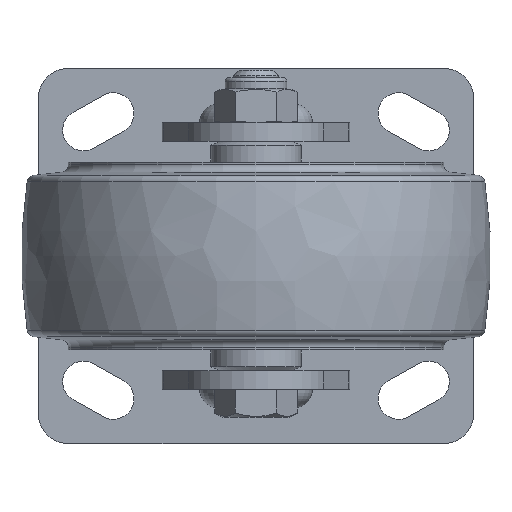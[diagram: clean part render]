
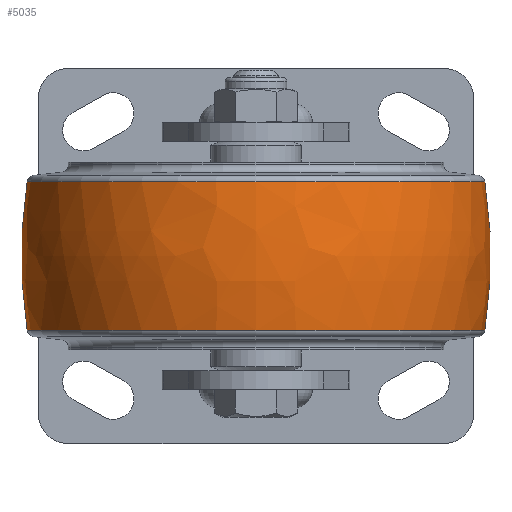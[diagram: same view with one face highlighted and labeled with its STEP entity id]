
A CAD part, front view. The second image highlights one B-rep face of the part: STEP entity #5035.
In plain terms, the highlighted free-form (B-spline) face has degree [3, 3] with [7, 4] control points.
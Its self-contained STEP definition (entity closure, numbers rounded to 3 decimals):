
#3386=CARTESIAN_POINT('',(0.,-64.241,0.));
#3387=DIRECTION('',(0.,0.,1.));
#3388=DIRECTION('',(0.156,0.988,0.));
#3389=AXIS2_PLACEMENT_3D('',#3386,#3387,#3388);
#3391=CARTESIAN_POINT('',(0.,64.241,
0.));
#3392=DIRECTION('',(0.,0.,-1.));
#3393=DIRECTION('',(0.156,-0.988,0.));
#3394=AXIS2_PLACEMENT_3D('',#3391,#3392,#3393);
#3396=CARTESIAN_POINT('',(19.804,0.,0.));
#3397=DIRECTION('',(-1.,0.,0.));
#3398=DIRECTION('',(0.,1.,0.));
#3399=AXIS2_PLACEMENT_3D('',#3396,#3397,#3398);
#3411=CARTESIAN_POINT('',(-19.804,0.,0.));
#3412=DIRECTION('',(-1.,0.,0.));
#3413=DIRECTION('',(0.,1.,0.));
#3414=AXIS2_PLACEMENT_3D('',#3411,#3412,#3413);
#3783=CARTESIAN_POINT('',(19.804,60.943,0.));
#3784=VERTEX_POINT('',#3783);
#3785=CARTESIAN_POINT('',(-19.804,60.943,0.));
#3786=VERTEX_POINT('',#3785);
#3803=CARTESIAN_POINT('',(19.804,-60.943,
0.));
#3804=VERTEX_POINT('',#3803);
#3805=CARTESIAN_POINT('',(-19.804,-60.943,
0.));
#3806=VERTEX_POINT('',#3805);
#4999=CARTESIAN_POINT('',(-20.589,-60.696,
3.819));
#5000=CARTESIAN_POINT('',(-6.924,-62.942,
3.96));
#5001=CARTESIAN_POINT('',(6.924,-62.942,3.96));
#5002=CARTESIAN_POINT('',(20.589,-60.696,3.819));
#5003=CARTESIAN_POINT('',(-20.589,-63.046,
-33.534));
#5004=CARTESIAN_POINT('',(-6.924,-65.379,
-34.774));
#5005=CARTESIAN_POINT('',(6.924,-65.379,
-34.774));
#5006=CARTESIAN_POINT('',(20.589,-63.046,
-33.534));
#5007=CARTESIAN_POINT('',(-20.589,-37.426,
-60.816));
#5008=CARTESIAN_POINT('',(-6.924,-38.811,
-63.066));
#5009=CARTESIAN_POINT('',(6.924,-38.811,
-63.066));
#5010=CARTESIAN_POINT('',(20.589,-37.426,
-60.816));
#5011=CARTESIAN_POINT('',(-20.589,0.,
-60.816));
#5012=CARTESIAN_POINT('',(-6.924,0.,
-63.066));
#5013=CARTESIAN_POINT('',(6.924,0.,
-63.066));
#5014=CARTESIAN_POINT('',(20.589,0.,
-60.816));
#5015=CARTESIAN_POINT('',(-20.589,37.426,
-60.816));
#5016=CARTESIAN_POINT('',(-6.924,38.811,
-63.066));
#5017=CARTESIAN_POINT('',(6.924,38.811,-63.066));
#5018=CARTESIAN_POINT('',(20.589,37.426,-60.816));
#5019=CARTESIAN_POINT('',(-20.589,63.046,
-33.534));
#5020=CARTESIAN_POINT('',(-6.924,65.379,
-34.774));
#5021=CARTESIAN_POINT('',(6.924,65.379,-34.774));
#5022=CARTESIAN_POINT('',(20.589,63.046,-33.534));
#5023=CARTESIAN_POINT('',(-20.589,60.696,3.819));
#5024=CARTESIAN_POINT('',(-6.924,62.942,3.96));
#5025=CARTESIAN_POINT('',(6.924,62.942,3.96));
#5026=CARTESIAN_POINT('',(20.589,60.696,3.819));
#5027=(BOUNDED_SURFACE()B_SPLINE_SURFACE(3,3,((#4999,#5000,#5001,#5002),(#5003,
#5004,#5005,#5006),(#5007,#5008,#5009,#5010),(#5011,#5012,#5013,#5014),(#5015,
#5016,#5017,#5018),(#5019,#5020,#5021,#5022),(#5023,#5024,#5025,#5026)),
.UNSPECIFIED.,.F.,.F.,.F.)B_SPLINE_SURFACE_WITH_KNOTS((4,3,4),(4,4),(0.,1.,
2.),(0.,1.),.UNSPECIFIED.)GEOMETRIC_REPRESENTATION_ITEM()RATIONAL_B_SPLINE_SURFACE(((1.195,1.185,1.185,1.195),(
0.944,0.935,0.935,0.944),(
0.944,0.935,0.935,0.944),(
1.195,1.185,1.185,1.195),(
0.944,0.935,0.935,0.944),(
0.944,0.935,0.935,0.944),(
1.195,1.185,1.185,1.195)))REPRESENTATION_ITEM('')SURFACE());
#5028=ORIENTED_EDGE('',*,*,#4989,.T.);
#5030=ORIENTED_EDGE('',*,*,#5029,.T.);
#5031=ORIENTED_EDGE('',*,*,#4992,.F.);
#5032=ORIENTED_EDGE('',*,*,#4939,.F.);
#5033=EDGE_LOOP('',(#5028,#5030,#5031,#5032));
#5034=FACE_OUTER_BOUND('',#5033,.F.);
#3390=CIRCLE('',#3389,126.741);
#3395=CIRCLE('',#3394,126.741);
#3400=CIRCLE('',#3399,60.943);
#3415=CIRCLE('',#3414,60.943);
#4939=EDGE_CURVE('',#3784,#3804,#3400,.T.);
#4989=EDGE_CURVE('',#3784,#3786,#3390,.T.);
#4992=EDGE_CURVE('',#3804,#3806,#3395,.T.);
#5029=EDGE_CURVE('',#3786,#3806,#3415,.T.);
#5035=ADVANCED_FACE('',(#5034),#5027,.T.);
